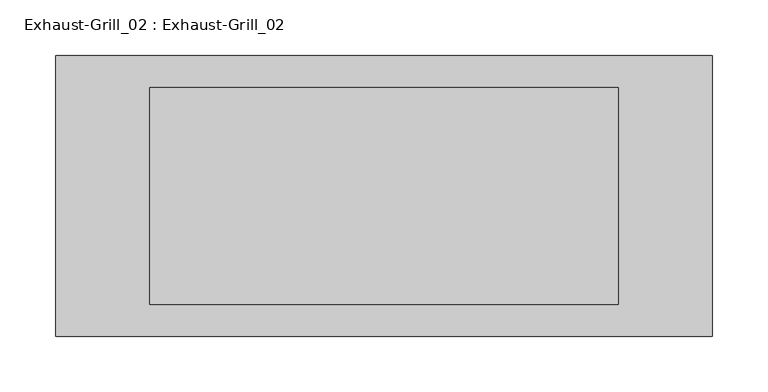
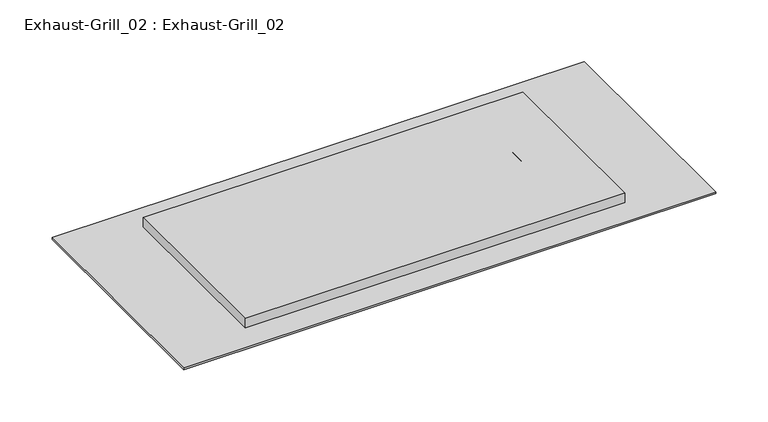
"""IFC4 building model written with IfcOpenShell, lengths in millimetres: air terminal geometry, Exhaust-Grill_02 : Exhaust-Grill_02."""

import ifcopenshell
import ifcopenshell.guid

model = None  # the IFC model being written
_history = None  # IfcOwnerHistory: only IFC2X3 demands one
_inside = {}  # id of a spatial element -> (the spatial element, [elements in it])
_under = {}  # id of a project, library or spatial element -> (it, [spatial elements below it])
_declared = {}  # id of a project -> (the project, [libraries it declares])
_typed = {}  # id of a type object -> (the type object, [elements of that type])
_made_of = {}  # id of a material, layer set ... -> (it, [elements and type objects made of it])


def new_model(schema):
    """Start an empty IFC model of exactly this schema.

    Asked for "IFC4X3", IfcOpenShell would pick the latest addendum, in which some entities
    have other attributes; the version numbers below select the first issue.
    IFC2X3 requires an IfcOwnerHistory on every rooted entity: one is made here for all.
    """
    global model, _history
    if schema == "IFC4X3":
        model = ifcopenshell.file(schema_version=(4, 3, 0, 0))
    else:
        model = ifcopenshell.file(schema=schema)
    _inside.clear()
    _under.clear()
    _declared.clear()
    _typed.clear()
    _made_of.clear()
    _history = None
    if model.schema == "IFC2X3":
        org = make("IfcOrganization", Name="unknown")
        user = make(
            "IfcPersonAndOrganization",
            ThePerson=make("IfcPerson", FamilyName="unknown"),
            TheOrganization=org,
        )
        app = make(
            "IfcApplication",
            ApplicationDeveloper=org,
            Version="unknown",
            ApplicationFullName="unknown",
            ApplicationIdentifier="unknown",
        )
        _history = make(
            "IfcOwnerHistory",
            OwningUser=user,
            OwningApplication=app,
            ChangeAction="ADDED",
            CreationDate=0,
        )
    return model


def make(cls, **values):
    """One entity of the class cls with the attributes given. An attribute that is None is left unset."""
    return model.create_entity(
        cls, **{name: value for name, value in values.items() if value is not None}
    )


def rooted(cls, **values):
    """An entity with a GlobalId (a new one), such as an element, a storey or a relation."""
    return make(cls, GlobalId=ifcopenshell.guid.new(), OwnerHistory=_history, **values)


def si_unit(unit_type, name, prefix=None):
    """IfcSIUnit, for example si_unit("LENGTHUNIT", "METRE", prefix="MILLI")."""
    return make("IfcSIUnit", UnitType=unit_type, Prefix=prefix, Name=name)


def assignment(units):
    """IfcUnitAssignment: the units of a project."""
    return None if units is None else make("IfcUnitAssignment", Units=units)


def point(xyz):
    """IfcCartesianPoint."""
    return None if xyz is None else make("IfcCartesianPoint", Coordinates=xyz)


def direction(xyz):
    """IfcDirection."""
    return None if xyz is None else make("IfcDirection", DirectionRatios=xyz)


def frame(location, z_axis=None, x_axis=None):
    """IfcAxis2Placement3D, a coordinate frame: its origin and axes. An axis left out is left unset."""
    return make(
        "IfcAxis2Placement3D",
        Location=point(location),
        Axis=direction(z_axis),
        RefDirection=direction(x_axis),
    )


def origin():
    """The frame at (0, 0, 0) with its axes left unset."""
    return frame((0.0, 0.0, 0.0))


def place(relative_to, where):
    """IfcLocalPlacement: puts the frame where relative to a parent placement (None: the world)."""
    return make(
        "IfcLocalPlacement", PlacementRelTo=relative_to, RelativePlacement=where
    )


def context(
    kind, dimensions, precision=None, world=None, true_north=None, identifier=None
):
    """IfcGeometricRepresentationContext, for example the 3D "Model" context."""
    return make(
        "IfcGeometricRepresentationContext",
        ContextIdentifier=identifier,
        ContextType=kind,
        CoordinateSpaceDimension=dimensions,
        Precision=precision,
        WorldCoordinateSystem=world,
        TrueNorth=true_north,
    )


def project(units=None, contexts=None):
    """IfcProject with its units and contexts."""
    return rooted(
        "IfcProject",
        Name="project",
        RepresentationContexts=contexts,
        UnitsInContext=assignment(units),
    )


def spatial(cls, under=None, at=None, **own):
    """A site, building, storey or space (cls), placed at a placement, below another one or the project."""
    s = rooted(cls, ObjectPlacement=at, **own)
    if under is not None:
        _under.setdefault(under.id(), (under, []))[1].append(s)
    return s


def faces_of(points, faces, orient=None, outer=None):
    """IfcFace entities. A face is a list of loops; a loop is a list of indices into points, from 0.

    orient and outer hold one flag for each loop. By default every Orientation is true, the
    first loop of a face is its IfcFaceOuterBound and the others are IfcFaceBound.
    """
    made = []
    for i, loops in enumerate(faces):
        bounds = []
        for j, loop in enumerate(loops):
            is_outer = j == 0 if outer is None else outer[i][j]
            bounds.append(
                make(
                    "IfcFaceOuterBound" if is_outer else "IfcFaceBound",
                    Bound=make("IfcPolyLoop", Polygon=[points[k] for k in loop]),
                    Orientation=True if orient is None else orient[i][j],
                )
            )
        made.append(make("IfcFace", Bounds=bounds))
    return made


def faceted_brep(points, faces, orient=None, outer=None, voids=None):
    """IfcFacetedBrep: a solid bounded by flat faces; with voids (closed shells), ...WithVoids."""
    shared = [point(p) for p in points]
    hull = make("IfcClosedShell", CfsFaces=faces_of(shared, faces, orient, outer))
    if voids is None:
        return make("IfcFacetedBrep", Outer=hull)
    return make(
        "IfcFacetedBrepWithVoids",
        Outer=hull,
        Voids=[
            make(cls, CfsFaces=faces_of(shared, fs, o, b)) for cls, fs, o, b in voids
        ],
    )


def shape(context_of_items, identifier, shape_type, items):
    """IfcShapeRepresentation: the items that make up one representation, for example the "Body"."""
    return make(
        "IfcShapeRepresentation",
        ContextOfItems=context_of_items,
        RepresentationIdentifier=identifier,
        RepresentationType=shape_type,
        Items=items,
    )


def source(mapping_origin, context_of_items, identifier, shape_type, items):
    """IfcRepresentationMap: a shape defined once, which mapped items show again and again."""
    return make(
        "IfcRepresentationMap",
        MappingOrigin=mapping_origin,
        MappedRepresentation=shape(context_of_items, identifier, shape_type, items),
    )


def transform(
    local_origin,
    x_axis=None,
    y_axis=None,
    z_axis=None,
    scale=None,
    scale2=None,
    scale3=None,
    uniform=True,
):
    """IfcCartesianTransformationOperator3D, or its non-uniform kind. x_axis, y_axis, z_axis: its Axis1, 2, 3."""
    if uniform:
        return make(
            "IfcCartesianTransformationOperator3D",
            Axis1=direction(x_axis),
            Axis2=direction(y_axis),
            LocalOrigin=point(local_origin),
            Scale=scale,
            Axis3=direction(z_axis),
        )
    return make(
        "IfcCartesianTransformationOperator3DnonUniform",
        Axis1=direction(x_axis),
        Axis2=direction(y_axis),
        LocalOrigin=point(local_origin),
        Scale=scale,
        Axis3=direction(z_axis),
        Scale2=scale2,
        Scale3=scale3,
    )


def mapped(mapping_source, mapping_target):
    """IfcMappedItem: shows the shape of a source again, moved by a transform."""
    return make(
        "IfcMappedItem", MappingSource=mapping_source, MappingTarget=mapping_target
    )


def made_of(thing, what):
    """Note that an element or type object is made of a material, layer set ...; save() writes the relation."""
    if what is not None:
        _made_of.setdefault(what.id(), (what, []))[1].append(thing)
    return thing


def element(
    cls,
    number,
    at=None,
    inside=None,
    cuts=None,
    type_object=None,
    material=None,
    context=None,
    identifier="Body",
    shape_type=None,
    held_by="IfcProductDefinitionShape",
    body=None,
    shapes=None,
    **own,
):
    """One element of the class cls, such as IfcWall. Its Tag is "e" and its number.

    at: its placement. inside: the storey or other place that contains it. cuts: it is an
    opening in that element (IfcRelVoidsElement). A single representation is given by context,
    identifier, shape_type and body (its items); several are given by shapes. held_by: the class
    of the entity that holds the representations. save() writes the other relations.
    """
    e = rooted(cls, Tag="e%d" % number, ObjectPlacement=at, **own)
    if body is not None:
        shapes = [shape(context, identifier, shape_type, body)]
    if shapes is not None:
        e.Representation = make(held_by, Representations=shapes)
    if inside is not None:
        _inside.setdefault(inside.id(), (inside, []))[1].append(e)
    if cuts is not None:
        rooted(
            "IfcRelVoidsElement", RelatingBuildingElement=cuts, RelatedOpeningElement=e
        )
    if type_object is not None:
        _typed.setdefault(type_object.id(), (type_object, []))[1].append(e)
    return made_of(e, material)


def aggregate(whole, parts):
    """IfcRelAggregates: a whole, such as a stair, and the parts it consists of."""
    return rooted("IfcRelAggregates", RelatingObject=whole, RelatedObjects=parts)


def save(model, path):
    """Write the relations noted so far, then the file.

    IfcRelAggregates (storeys below a building ...), IfcRelContainedInSpatialStructure (elements
    in a storey), IfcRelDefinesByType, IfcRelAssociatesMaterial and IfcRelDeclares: one each for
    every whole, place, type object, material and project.
    """
    for whole, parts in _under.values():
        aggregate(whole, parts)
    for where, things in _inside.values():
        rooted(
            "IfcRelContainedInSpatialStructure",
            RelatedElements=things,
            RelatingStructure=where,
        )
    for kind, things in _typed.values():
        rooted("IfcRelDefinesByType", RelatedObjects=things, RelatingType=kind)
    for what, things in _made_of.values():
        rooted("IfcRelAssociatesMaterial", RelatedObjects=things, RelatingMaterial=what)
    for by, libraries in _declared.values():
        rooted("IfcRelDeclares", RelatingContext=by, RelatedDefinitions=libraries)
    model.write(path)


def exhaust_grill_02_exhaust_grill_02_eb34b7bc(model_context):
    return source(origin(), model_context, "Body", "Brep", [
        faceted_brep([(-200.3077011, 87.8076307, 4010.000001), (-209.9999809, 97.4999142, 3997.9998543), (210.0000191, 97.4998188, 3997.9998779), (200.3077354, 87.8075579, 4010.000001), (210.0000191, 97.4998379, 4000.0), (-209.9999809, 97.4999142, 4000.0), (-209.9999804, 97.4999142, 4011.0), (210.00002, 97.4998379, 4011.0), (209.9999619, -97.5001621, 3997.9998779), (200.3077011, -87.8078786, 4010.000001), (209.9999809, -97.5001612, 4011.0), (209.9999809, -97.5001621, 4000.0), (-210.0000191, -97.5000668, 3997.9998779), (-200.3077354, -87.8078059, 4010.000001), (-210.0000185, -97.5000858, 4011.0), (-210.0000191, -97.5000858, 4000.0), (294.4999886, 125.9999847, 4000.0), (-294.4999886, 125.9999847, 4000.0), (-294.4999886, -126.0001372, 4000.0), (294.4999886, -126.0002328, 4000.0), (294.4999886, 125.9999847, 3997.9998779), (294.4999886, -126.0002328, 3997.9998779), (-294.4999886, -126.0001372, 3997.9998779), (-294.4999886, 125.9999847, 3997.9998779)], [[[0, 1, 2, 3]], [[4, 5, 6, 7]], [[3, 2, 8, 9]], [[4, 7, 10, 11]], [[9, 8, 12, 13]], [[11, 10, 14, 15]], [[1, 0, 13, 12]], [[15, 14, 6, 5]], [[16, 17, 18, 19], [5, 4, 11, 15]], [[20, 21, 22, 23], [2, 1, 12, 8]], [[17, 16, 20, 23]], [[18, 17, 23, 22]], [[19, 18, 22, 21]], [[16, 19, 21, 20]], [[14, 10, 7, 6]], [[0, 3, 9, 13]]]),
        faceted_brep([(-144.9816371, 32.4815458, 3998.3273315), (-134.9814846, 22.4813895, 4009.3273926), (134.9814933, 22.4813405, 4009.3273926), (144.9816498, 32.4814931, 3998.3273315), (-134.0000153, 21.4999198, 4009.3273926), (-144.0001678, 31.5000761, 3998.3273315), (144.0001801, 31.5000238, 3998.3273315), (134.0000237, 21.4998711, 4009.3273926), (134.9814846, -22.4816374, 4009.3273926), (144.9816371, -32.4817938, 3998.3273315), (144.0001678, -31.5003241, 3998.3273315), (134.0000153, -21.5001678, 4009.3273926), (-134.9814933, -22.4815884, 4009.3273926), (-144.9816498, -32.4817411, 3998.3273315), (-144.0001801, -31.5002718, 3998.3273315), (-134.0000237, -21.5001191, 4009.3273926)], [[[0, 1, 2, 3]], [[4, 5, 6, 7]], [[3, 2, 8, 9]], [[7, 6, 10, 11]], [[9, 8, 12, 13]], [[11, 10, 14, 15]], [[1, 0, 13, 12]], [[0, 3, 9, 13], [6, 5, 14, 10]], [[5, 4, 15, 14]], [[2, 1, 12, 8], [4, 7, 11, 15]]]),
        faceted_brep([(-162.4816276, 49.9815429, 3998.3273315), (-152.481475, 39.9813866, 4009.3273926), (152.4814907, 39.9813312, 4009.3273926), (162.4816471, 49.9814838, 3998.3273315), (-151.5000057, 38.9999169, 4009.3273926), (-161.5001583, 49.0000732, 3998.3273315), (161.5001774, 49.0000145, 3998.3273315), (151.500021, 38.9998619, 4009.3273926), (152.481475, -39.9816345, 4009.3273926), (162.4816276, -49.9817908, 3998.3273315), (161.5001583, -49.0003212, 3998.3273315), (151.5000057, -39.0001648, 4009.3273926), (-152.4814907, -39.9815791, 4009.3273926), (-162.4816471, -49.9817318, 3998.3273315), (-161.5001774, -49.0002625, 3998.3273315), (-151.500021, -39.0001098, 4009.3273926)], [[[0, 1, 2, 3]], [[4, 5, 6, 7]], [[3, 2, 8, 9]], [[7, 6, 10, 11]], [[9, 8, 12, 13]], [[11, 10, 14, 15]], [[1, 0, 13, 12]], [[0, 3, 9, 13], [6, 5, 14, 10]], [[5, 4, 15, 14]], [[2, 1, 12, 8], [4, 7, 11, 15]]]),
        faceted_brep([(-179.9816371, 67.481559, 3998.3273315), (-169.9814846, 57.4814027, 4009.3273926), (169.981507, 57.4813409, 4009.3273926), (179.9816635, 67.4814936, 3998.3273315), (-169.0000153, 56.499933, 4009.3273926), (-179.0001678, 66.5000894, 3998.3273315), (179.0001938, 66.5000243, 3998.3273315), (169.0000374, 56.4998716, 4009.3273926), (169.9814846, -57.4816507, 4009.3273926), (179.9816371, -67.481807, 3998.3273315), (179.0001678, -66.5003373, 3998.3273315), (169.0000153, -56.500181, 4009.3273926), (-169.981507, -57.4815889, 4009.3273926), (-179.9816635, -67.4817416, 3998.3273315), (-179.0001938, -66.5002723, 3998.3273315), (-169.0000374, -56.5001196, 4009.3273926)], [[[0, 1, 2, 3]], [[4, 5, 6, 7]], [[3, 2, 8, 9]], [[7, 6, 10, 11]], [[9, 8, 12, 13]], [[11, 10, 14, 15]], [[1, 0, 13, 12]], [[0, 3, 9, 13], [6, 5, 14, 10]], [[5, 4, 15, 14]], [[2, 1, 12, 8], [4, 7, 11, 15]]]),
    ])


if __name__ == "__main__":
    model = new_model("IFC4")
    model_context = context("Model", 3, world=origin())
    ifc_project = project(units=[si_unit("LENGTHUNIT", "METRE", prefix="MILLI")], contexts=[model_context])
    site = spatial("IfcSite", under=ifc_project)
    building = spatial("IfcBuilding", under=site)
    placement = place(None, origin())
    exhaust_grill_02_exhaust_grill_02_shape = exhaust_grill_02_exhaust_grill_02_eb34b7bc(model_context)
    element("IfcAirTerminal", 1, ObjectType="Exhaust-Grill_02 : Exhaust-Grill_02", at=placement, inside=building, context=model_context, shape_type="MappedRepresentation", body=[
        mapped(exhaust_grill_02_exhaust_grill_02_shape, transform((0.0, 0.0, 0.0), x_axis=(1.0, 0.0, 0.0), y_axis=(0.0, 1.0, 0.0), z_axis=(0.0, 0.0, 1.0))),
    ])
    save(model, "model.ifc")
